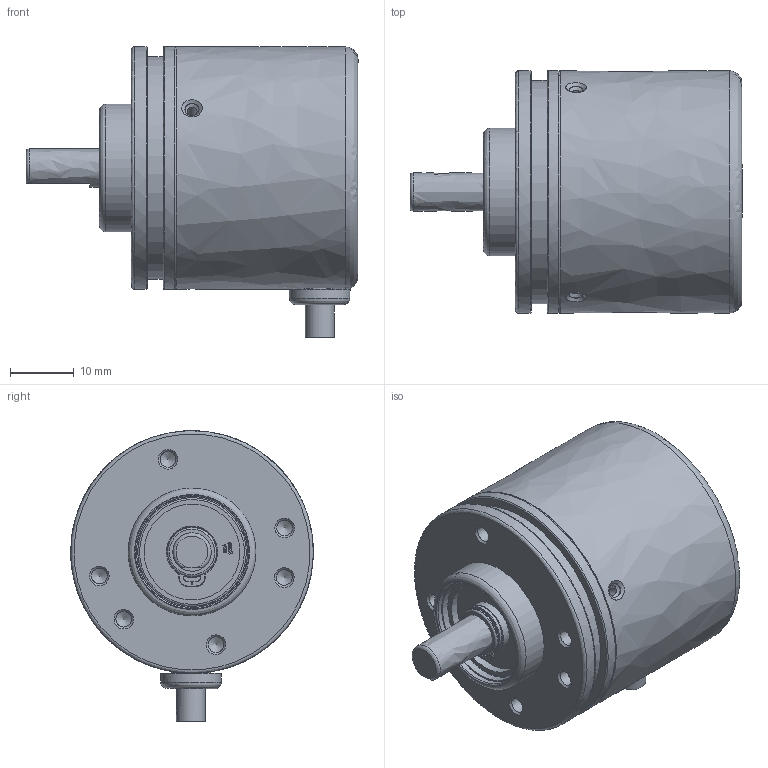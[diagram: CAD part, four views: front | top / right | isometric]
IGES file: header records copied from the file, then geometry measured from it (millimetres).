
Global section: file name: HTR-3A-3D檔,2; native system: 2HAutodesk Inventor 2016; preprocessor: unknown; author: hontko109; date: 20171128.143144; units: millimetre
Bounding box: 52 x 38 x 45.52 mm (x, y, z)
Volume: 16991.1 mm3; surface area: 17605.9 mm2
Topology: 8 solids, 8 shells, 686 faces, 1868 edges, 1267 vertices
Faces by surface type: bspline 686
